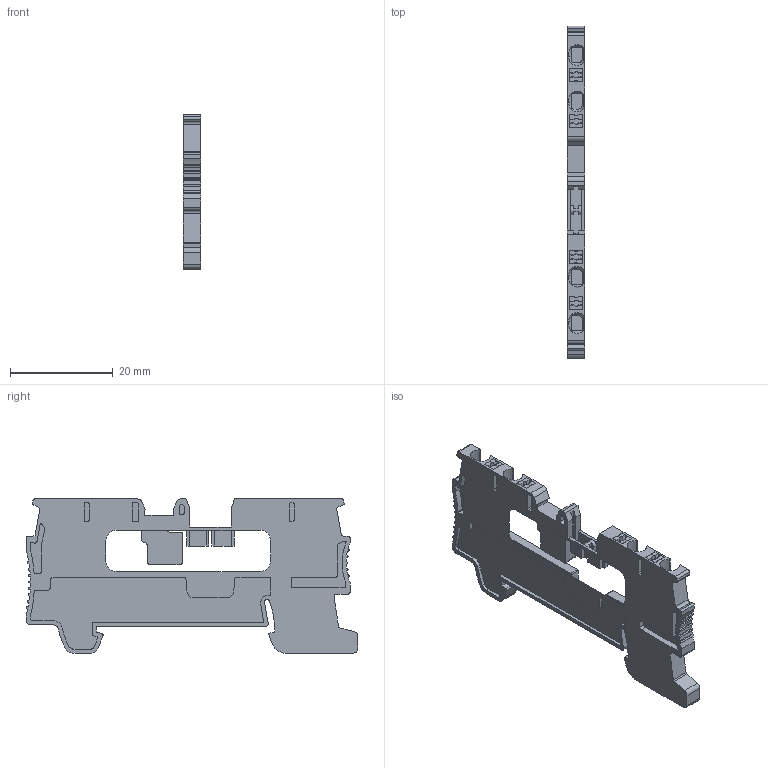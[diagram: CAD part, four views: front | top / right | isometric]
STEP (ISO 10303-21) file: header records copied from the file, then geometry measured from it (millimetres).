
FILE_DESCRIPTION(('Open CASCADE Model'),'2;1');
FILE_NAME('Open CASCADE Shape Model','2024-12-20T10:53:37',('Author'),( 'Open CASCADE'),'Open CASCADE STEP processor 6.5','Open CASCADE 6.5' ,'Unknown');
FILE_SCHEMA(('AUTOMOTIVE_DESIGN { 1 0 10303 214 1 1 1 1 }'));
Length unit declared in the file: millimetre
Products named in the file (613): CADSOFTTOOLS 1; CADSOFTTOOLS 1.1; CADSOFTTOOLS 1.2; CADSOFTTOOLS 1.3; CADSOFTTOOLS 1.4; CADSOFTTOOLS 1.5; CADSOFTTOOLS 1.6; CADSOFTTOOLS 1.7; CADSOFTTOOLS 1.8; CADSOFTTOOLS 1.9; CADSOFTTOOLS 1.10; CADSOFTTOOLS 1.11; CADSOFTTOOLS 1.12; CADSOFTTOOLS 1.13; CADSOFTTOOLS 1.14; CADSOFTTOOLS 1.15; CADSOFTTOOLS 1.16; CADSOFTTOOLS 1.17; CADSOFTTOOLS 1.18; CADSOFTTOOLS 1.19; CADSOFTTOOLS 1.20; CADSOFTTOOLS 1.21; CADSOFTTOOLS 1.22; CADSOFTTOOLS 1.23; CADSOFTTOOLS 1.24; CADSOFTTOOLS 1.25; CADSOFTTOOLS 1.26; CADSOFTTOOLS 1.27; CADSOFTTOOLS 1.28; CADSOFTTOOLS 1.29; CADSOFTTOOLS 1.30; CADSOFTTOOLS 1.31; CADSOFTTOOLS 1.32; CADSOFTTOOLS 1.33; CADSOFTTOOLS 1.34; CADSOFTTOOLS 1.35; CADSOFTTOOLS 1.36; CADSOFTTOOLS 1.37; CADSOFTTOOLS 1.38; CADSOFTTOOLS 1.39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
Assembly tree (612 placements, depth 2):
  CADSOFTTOOLS 1
    CADSOFTTOOLS 1.1
    CADSOFTTOOLS 1.2
    CADSOFTTOOLS 1.3
    CADSOFTTOOLS 1.4
    CADSOFTTOOLS 1.5
    CADSOFTTOOLS 1.6
    CADSOFTTOOLS 1.7
    CADSOFTTOOLS 1.8
    CADSOFTTOOLS 1.9
    CADSOFTTOOLS 1.10
    CADSOFTTOOLS 1.11
    CADSOFTTOOLS 1.12
    CADSOFTTOOLS 1.13
    CADSOFTTOOLS 1.14
    CADSOFTTOOLS 1.15
    CADSOFTTOOLS 1.16
    CADSOFTTOOLS 1.17
    CADSOFTTOOLS 1.18
    CADSOFTTOOLS 1.19
    CADSOFTTOOLS 1.20
    CADSOFTTOOLS 1.21
    CADSOFTTOOLS 1.22
    CADSOFTTOOLS 1.23
    CADSOFTTOOLS 1.24
    CADSOFTTOOLS 1.25
    CADSOFTTOOLS 1.26
    CADSOFTTOOLS 1.27
    CADSOFTTOOLS 1.28
    CADSOFTTOOLS 1.29
    CADSOFTTOOLS 1.30
    CADSOFTTOOLS 1.31
    CADSOFTTOOLS 1.32
    CADSOFTTOOLS 1.33
    CADSOFTTOOLS 1.34
    CADSOFTTOOLS 1.35
    CADSOFTTOOLS 1.36
    CADSOFTTOOLS 1.37
    CADSOFTTOOLS 1.38
    CADSOFTTOOLS 1.39
    CADSOFTTOOLS 1.40
    CADSOFTTOOLS 1.41
    CADSOFTTOOLS 1.42
    CADSOFTTOOLS 1.43
    CADSOFTTOOLS 1.44
    CADSOFTTOOLS 1.45
    CADSOFTTOOLS 1.46
    CADSOFTTOOLS 1.47
    CADSOFTTOOLS 1.48
    CADSOFTTOOLS 1.49
    CADSOFTTOOLS 1.50
    CADSOFTTOOLS 1.51
    CADSOFTTOOLS 1.52
    CADSOFTTOOLS 1.53
    CADSOFTTOOLS 1.54
    CADSOFTTOOLS 1.55
    CADSOFTTOOLS 1.56
    CADSOFTTOOLS 1.57
    CADSOFTTOOLS 1.58
    CADSOFTTOOLS 1.59
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Bounding box: 3.5 x 64.55 x 30.05 mm (x, y, z)
Surface area: 3662.5 mm2 (no closed solid volume)
Topology: 0 solids, 612 shells, 612 faces, 3195 edges, 3195 vertices
Faces by surface type: plane 401, cylinder 207, cone 4
Entity records: 70801 total; most frequent: CARTESIAN_POINT 18352, DIRECTION 8349, LINE 4283, VECTOR 4283, ORIENTED_EDGE 3195, EDGE_CURVE 3195, VERTEX_POINT 3195, SURFACE_CURVE 3195
